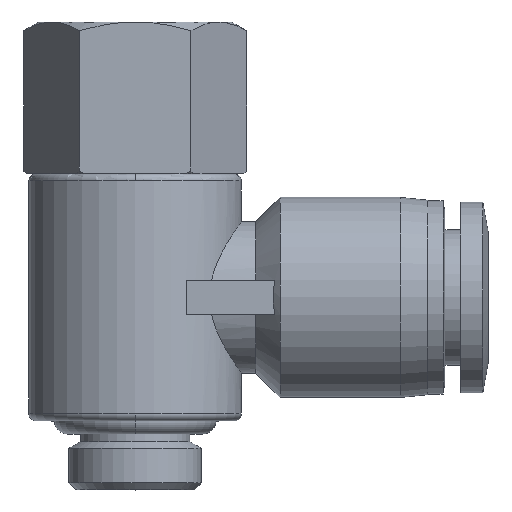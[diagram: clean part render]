
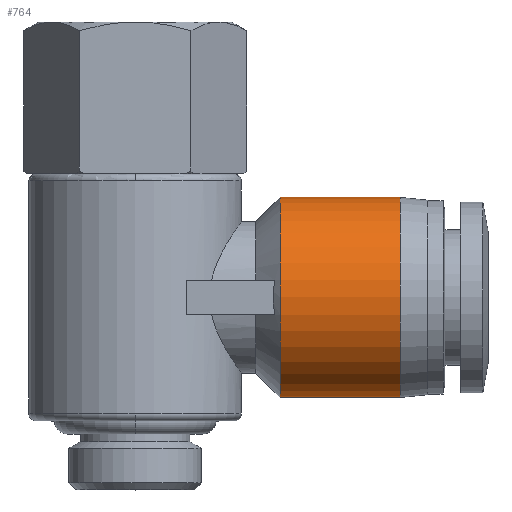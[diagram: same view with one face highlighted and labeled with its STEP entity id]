
A CAD part, top view. The second image highlights one B-rep face of the part: STEP entity #764.
In plain terms, the highlighted cylindrical face has radius 7.25 mm (diameter 14.5 mm), a partial arc.
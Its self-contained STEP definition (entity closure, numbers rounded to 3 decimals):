
#23 = ORIENTED_EDGE ( 'NONE', *, *, #2537, .F. ) ;
#115 = EDGE_LOOP ( 'NONE', ( #1701, #2209, #23, #1685 ) ) ;
#188 = FACE_OUTER_BOUND ( 'NONE', #115, .T. ) ;
#299 = VERTEX_POINT ( 'NONE', #526 ) ;
#385 = CYLINDRICAL_SURFACE ( 'NONE', #1188, 7.25 ) ;
#392 = VERTEX_POINT ( 'NONE', #2226 ) ;
#402 = DIRECTION ( 'NONE',  ( 0., -1., 0. ) ) ;
#526 = CARTESIAN_POINT ( 'NONE',  ( 10.5, 15.2, 0. ) ) ;
#625 = EDGE_CURVE ( 'NONE', #964, #299, #1449, .T. ) ;
#670 = CIRCLE ( 'NONE', #909, 7.25 ) ;
#702 = DIRECTION ( 'NONE',  ( -1., 0., 0. ) ) ;
#741 = CARTESIAN_POINT ( 'NONE',  ( 10.5, 22.45, 0. ) ) ;
#764 = ADVANCED_FACE ( 'NONE', ( #188 ), #385, .T. ) ;
#816 = CARTESIAN_POINT ( 'NONE',  ( 19.2, 29.7, 0. ) ) ;
#909 = AXIS2_PLACEMENT_3D ( 'NONE', #1485, #2610, #402 ) ;
#964 = VERTEX_POINT ( 'NONE', #2578 ) ;
#1012 = DIRECTION ( 'NONE',  ( -1., 0., 0. ) ) ;
#1106 = CARTESIAN_POINT ( 'NONE',  ( 14.85, 22.45, 0. ) ) ;
#1188 = AXIS2_PLACEMENT_3D ( 'NONE', #1106, #2660, #2944 ) ;
#1300 = CARTESIAN_POINT ( 'NONE',  ( 14.85, 29.7, 0. ) ) ;
#1313 = LINE ( 'NONE', #1300, #2110 ) ;
#1449 = LINE ( 'NONE', #2606, #1581 ) ;
#1485 = CARTESIAN_POINT ( 'NONE',  ( 19.2, 22.45, 0. ) ) ;
#1547 = DIRECTION ( 'NONE',  ( -1., 0., 0. ) ) ;
#1581 = VECTOR ( 'NONE', #1012, 1000. ) ;
#1614 = DIRECTION ( 'NONE',  ( 0., -1., 0. ) ) ;
#1685 = ORIENTED_EDGE ( 'NONE', *, *, #625, .F. ) ;
#1701 = ORIENTED_EDGE ( 'NONE', *, *, #2085, .T. ) ;
#2085 = EDGE_CURVE ( 'NONE', #964, #2139, #670, .T. ) ;
#2110 = VECTOR ( 'NONE', #1547, 1000. ) ;
#2139 = VERTEX_POINT ( 'NONE', #816 ) ;
#2209 = ORIENTED_EDGE ( 'NONE', *, *, #2451, .T. ) ;
#2226 = CARTESIAN_POINT ( 'NONE',  ( 10.5, 29.7, 0. ) ) ;
#2451 = EDGE_CURVE ( 'NONE', #2139, #392, #1313, .T. ) ;
#2537 = EDGE_CURVE ( 'NONE', #299, #392, #2707, .T. ) ;
#2578 = CARTESIAN_POINT ( 'NONE',  ( 19.2, 15.2, 0. ) ) ;
#2606 = CARTESIAN_POINT ( 'NONE',  ( 14.85, 15.2, 0. ) ) ;
#2610 = DIRECTION ( 'NONE',  ( -1., 0., 0. ) ) ;
#2660 = DIRECTION ( 'NONE',  ( -1., 0., 0. ) ) ;
#2707 = CIRCLE ( 'NONE', #2797, 7.25 ) ;
#2797 = AXIS2_PLACEMENT_3D ( 'NONE', #741, #702, #1614 ) ;
#2944 = DIRECTION ( 'NONE',  ( 0., -1., 0. ) ) ;
